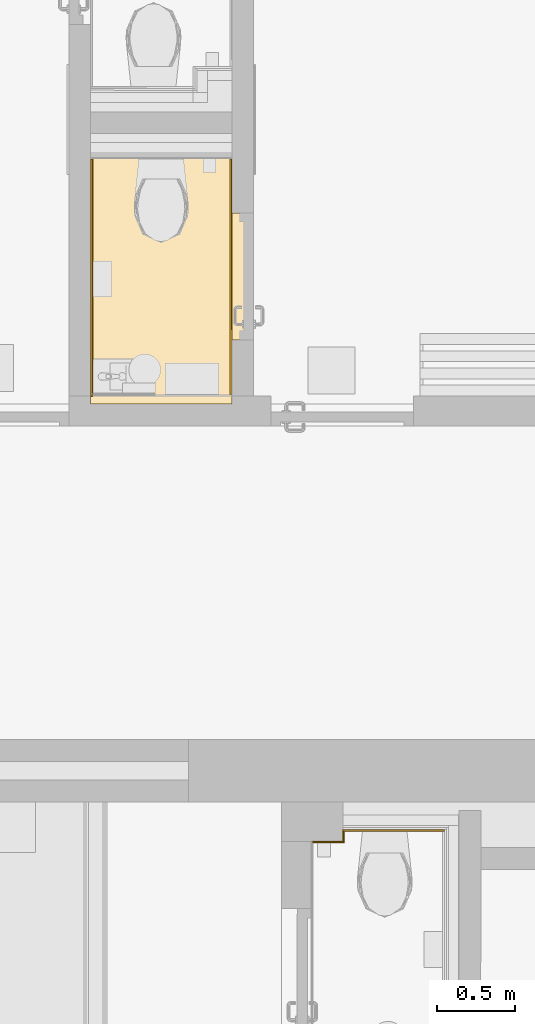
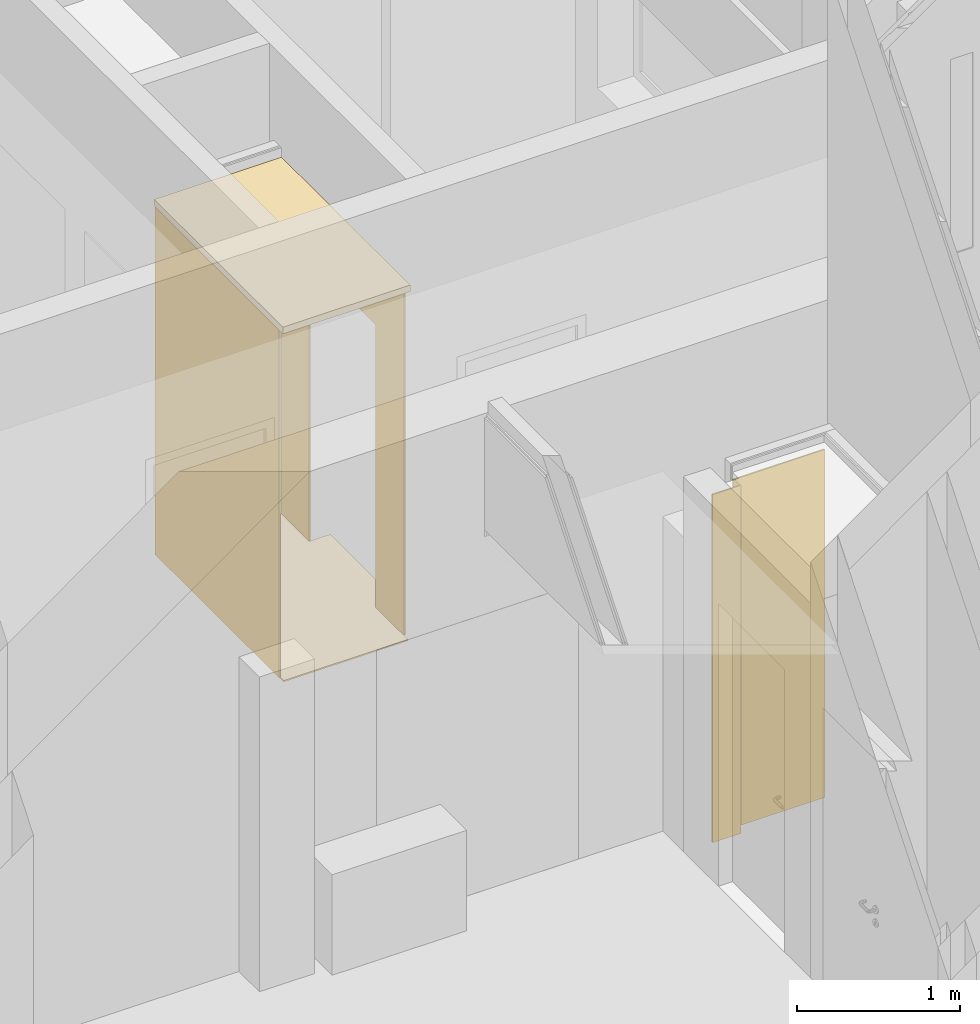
# One storey, part 235 of 301: 7 coverings, 1 opening.
"""IFC2X3 building model written with IfcOpenShell, lengths in millimetres."""

from ifc_helpers import new_model, entity, si_unit, converted_unit, derived_unit, money_unit, direction, frame, origin_with_axes, place, context, subcontext, project, spatial, faceted_brep, material, type_object, element, save


model = new_model("IFC2X3")

# Units and contexts
model_context = context("Model", 3, precision=0.01, world=origin_with_axes(), true_north=direction((0.0, 1.0)))
body_context = subcontext(model_context, "Body", "Model", "MODEL_VIEW")
ifc_project = project(units=[si_unit("LENGTHUNIT", "METRE", prefix="MILLI"), si_unit("AREAUNIT", "SQUARE_METRE"), si_unit("VOLUMEUNIT", "CUBIC_METRE"), converted_unit("PLANEANGLEUNIT", "DEGREE", entity("IfcPlaneAngleMeasure", 0.0174532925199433), si_unit("PLANEANGLEUNIT", "RADIAN"), dimensions=[0, 0, 0, 0, 0, 0, 0]), money_unit("EUR"), converted_unit("TIMEUNIT", "Year", entity("IfcTimeMeasure", 31557600.0), si_unit("TIMEUNIT", "SECOND"), dimensions=[0, 0, 1, 0, 0, 0, 0]), si_unit("MASSUNIT", "GRAM", prefix="KILO"), si_unit("THERMODYNAMICTEMPERATUREUNIT", "DEGREE_CELSIUS"), si_unit("LUMINOUSINTENSITYUNIT", "LUMEN"), si_unit("ENERGYUNIT", "JOULE", prefix="MEGA"), derived_unit("THERMALCONDUCTANCEUNIT", [(si_unit("POWERUNIT", "WATT"), 1), (si_unit("LENGTHUNIT", "METRE"), -1), (si_unit("THERMODYNAMICTEMPERATUREUNIT", "KELVIN"), -1)]), derived_unit("SPECIFICHEATCAPACITYUNIT", [(si_unit("ENERGYUNIT", "JOULE"), 1), (si_unit("MASSUNIT", "GRAM", prefix="KILO"), -1), (si_unit("THERMODYNAMICTEMPERATUREUNIT", "KELVIN"), -1)]), derived_unit("MASSDENSITYUNIT", [(si_unit("MASSUNIT", "GRAM", prefix="KILO"), 1), (si_unit("VOLUMEUNIT", "CUBIC_METRE"), -1)])], contexts=[model_context])

# Site, building, storey
site_placement = place(None, frame((0.0, 0.0, 8650.0), z_axis=(0.0, 0.0, 1.0), x_axis=(1.0, 0.0, 0.0)))
site = spatial("IfcSite", under=ifc_project, at=site_placement, Name="43301:001:0844", CompositionType="ELEMENT")
building_placement = place(site_placement, origin_with_axes())
building = spatial("IfcBuilding", under=site, at=building_placement, Name="Kuressaare Ametikooli tuulikute mehaanikute õppekorpus", CompositionType="ELEMENT")
storey_placement = place(building_placement, origin_with_axes())
storey = spatial("IfcBuildingStorey", under=building, at=storey_placement, Name="1.korrus", CompositionType="ELEMENT", Elevation=0.0)

# Coverings
ifc_material_1 = material(Name="GENEERILINE - KONSTRUKTRIOON")
covering_type_1 = type_object("IfcCoveringType", Name="GENEERILINE - KONSTRUKTRIOON 50", PredefinedType="CEILING")
covering_1_placement = place(storey_placement, frame((99127.70591823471, 28323.06892365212, 2600.0), z_axis=(0.0, 0.0, 1.0), x_axis=(1.0, 0.0, 0.0)))
element("IfcCovering", 1, at=covering_1_placement, inside=storey, type_object=covering_type_1, material=ifc_material_1, Name="RL2", PredefinedType="CEILING", context=body_context, shape_type="Brep", body=[
    faceted_brep([(0.0, 0.0, 49.99999999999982), (0.0, 0.0, 0.0), (899.9999999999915, 0.0, 0.0), (899.9999999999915, 0.0, 49.99999999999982), (0.0, 1575.413065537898, 49.99999999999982), (0.0, 1575.413065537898, 0.0), (899.9999999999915, 1575.413065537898, 0.0), (899.9999999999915, 1575.413065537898, 49.99999999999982)], [[[0, 1, 2, 3]], [[4, 5, 1, 0]], [[2, 1, 5, 6]], [[3, 2, 6, 7]], [[4, 0, 3, 7]], [[7, 6, 5, 4]]]),
])
ifc_material_2 = material(Name="SA_viimistluskiht")
covering_type_2 = type_object("IfcCoveringType", Name="SA_viimistluskiht 10", PredefinedType="CLADDING")
covering_2_placement = place(storey_placement, frame((101383.6546914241, 25608.13940888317, 0.0), z_axis=(0.0, 0.0, 1.0), x_axis=(-0.9999999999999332, -3.658297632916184e-07, 0.0)))
element("IfcCovering", 2, at=covering_2_placement, inside=storey, type_object=covering_type_2, material=ifc_material_2, Name="S3", PredefinedType="CLADDING", context=body_context, shape_type="Brep", body=[
    faceted_brep([(3.658286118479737e-06, 10.00000000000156, 2600.0), (0.0, 0.0, 2600.0), (647.3382097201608, 0.0, 2600.0), (647.3382097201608, 10.00000000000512, 2600.0), (0.0, 0.0, 0.0), (3.658286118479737e-06, 10.00000000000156, 0.0), (647.3382097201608, 0.0, 0.0), (647.3382097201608, 10.00000000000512, 0.0)], [[[0, 1, 2, 3]], [[4, 1, 0, 5]], [[1, 4, 6, 2]], [[7, 3, 2, 6]], [[5, 0, 3, 7]], [[4, 5, 7, 6]]]),
])
covering_3_placement = place(storey_placement, frame((100535.5599477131, 25533.05455399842, 0.0), z_axis=(0.0, 0.0, 1.0), x_axis=(0.9999999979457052, 6.40982810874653e-05, 0.0)))
element("IfcCovering", 3, at=covering_3_placement, inside=storey, type_object=covering_type_2, material=ifc_material_2, Name="S3", PredefinedType="CLADDING", context=body_context, shape_type="Brep", body=[
    faceted_brep([(10.00064150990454, 0.0, 0.0), (210.7565344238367, 0.0, 0.0), (210.7558934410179, -10.00000000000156, 0.0), (9.998852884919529, -9.99999999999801, 0.0), (10.00064150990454, 0.0, 2600.0), (210.7565344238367, 0.0, 2600.0), (210.7558934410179, -10.00000000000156, 2600.0), (9.998852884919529, -9.99999999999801, 2600.0)], [[[0, 1, 2, 3]], [[4, 5, 1, 0]], [[6, 2, 1, 5]], [[3, 2, 6, 7]], [[7, 4, 0, 3]], [[7, 6, 5, 4]]]),
])
covering_4_placement = place(storey_placement, frame((100736.316481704, 25533.06742214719, 0.0), z_axis=(0.0, 0.0, 1.0), x_axis=(0.0, 1.0, 0.0)))
element("IfcCovering", 4, at=covering_4_placement, inside=storey, type_object=covering_type_2, material=ifc_material_2, Name="S3", PredefinedType="CLADDING", context=body_context, shape_type="Brep", body=[
    faceted_brep([(65.07175357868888, -10.00000000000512, 0.0), (65.07175357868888, -10.00000000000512, 2600.0), (0.0006409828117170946, -10.00000000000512, 2600.0), (0.0006409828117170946, -10.00000000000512, 0.0), (65.07174992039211, -3.658300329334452e-06, 2600.0), (65.07174992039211, -3.658300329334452e-06, 0.0), (0.0, 0.0, 2600.0), (0.0, 0.0, 0.0)], [[[0, 1, 2, 3]], [[4, 1, 0, 5]], [[1, 4, 6, 2]], [[3, 2, 6, 7]], [[5, 0, 3, 7]], [[4, 5, 7, 6]]]),
])

# Covering, opening
covering_5_placement = place(storey_placement, frame((100027.7009260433, 28373.07007129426, 0.0), z_axis=(0.0, 0.0, 1.0), x_axis=(-0.0001147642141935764, 0.9999999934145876, 0.0)))
covering_5 = element("IfcCovering", 5, at=covering_5_placement, inside=storey, type_object=covering_type_2, material=ifc_material_2, Name="S3", PredefinedType="CLADDING", context=body_context, shape_type="Brep", body=[
    faceted_brep([(1169.998843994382, 0.0, 2110.0), (1169.998843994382, 0.0, 0.0), (1515.411418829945, 0.001151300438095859, 0.0), (1515.411418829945, 0.001151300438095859, 2600.0), (9.998967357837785, -0.006885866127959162, 2600.0), (9.998967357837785, -0.006885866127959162, 0.0), (359.9988439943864, 0.0, 0.0), (359.9988439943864, 0.0, 2110.0), (1169.998843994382, 10.00000000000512, 2110.0), (1169.998843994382, 10.00000000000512, 0.0), (1515.412569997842, 9.999999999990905, 0.0), (1515.412569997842, 9.999999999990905, 2600.0), (10.00011579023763, 10.00000000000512, 2600.0), (10.00011579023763, 10.00000000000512, 0.0), (359.9988439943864, 9.999999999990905, 0.0), (359.9988439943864, 9.999999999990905, 2110.0)], [[[0, 1, 2, 3, 4, 5, 6, 7]], [[1, 0, 8, 9]], [[1, 9, 10, 2]], [[3, 2, 10, 11]], [[4, 3, 11, 12]], [[4, 12, 13, 5]], [[14, 6, 5, 13]], [[7, 6, 14, 15]], [[0, 7, 15, 8]], [[15, 14, 13, 12, 11, 10, 9, 8]]]),
])
opening_placement = place(covering_5_placement, frame((764.9988439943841, 0.0, 0.0), z_axis=(0.0, 0.0, 1.0), x_axis=(1.0, 0.0, 0.0)))
element("IfcOpeningElement", 6, at=opening_placement, cuts=covering_5, Name="ava", context=body_context, shape_type="Brep", body=[
    faceted_brep([(404.9999999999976, 0.0, 2110.0), (-404.9999999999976, 0.0, 2110.0), (-405.0000000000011, -1.175062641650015, 2110.0), (405.0000000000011, -1.175062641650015, 2110.0), (405.0000000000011, 11.17506264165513, 2110.0), (-405.0000000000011, 11.17506264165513, 2110.0), (-404.9999999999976, 0.0, 0.0), (-405.0000000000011, -1.175062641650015, 0.0), (405.0000000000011, -1.175062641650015, 0.0), (404.9999999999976, 0.0, 0.0), (405.0000000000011, 11.17506264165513, 0.0), (-405.0000000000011, 11.17506264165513, 0.0)], [[[0, 1, 2, 3]], [[1, 0, 4, 5]], [[1, 6, 7, 2]], [[7, 8, 3, 2]], [[9, 0, 3, 8]], [[0, 9, 10, 4]], [[4, 10, 11, 5]], [[6, 1, 5, 11]], [[6, 9, 8, 7]], [[9, 6, 11, 10]]]),
])

# Coverings
covering_6_placement = place(storey_placement, frame((99129.54832818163, 29898.48180851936, 0.0), z_axis=(0.0, 0.0, 1.0), x_axis=(-3.971457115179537e-06, -0.9999999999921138, 0.0)))
element("IfcCovering", 7, at=covering_6_placement, inside=storey, type_object=covering_type_2, material=ifc_material_2, Name="S3", PredefinedType="CLADDING", context=body_context, shape_type="Brep", body=[
    faceted_brep([(9.999963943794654, 9.999999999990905, 0.0), (9.999963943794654, 9.999999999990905, 2600.0), (1525.41271795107, 9.999999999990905, 2600.0), (1525.41271795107, 9.999999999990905, 0.0), (9.999999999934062, 3.605626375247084e-05, 2600.0), (9.999999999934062, 3.605626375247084e-05, 0.0), (1525.412769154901, 0.0, 2600.0), (1525.412769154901, 0.0, 0.0)], [[[0, 1, 2, 3]], [[4, 1, 0, 5]], [[1, 4, 6, 2]], [[3, 2, 6, 7]], [[5, 0, 3, 7]], [[4, 5, 7, 6]]]),
])
covering_type_3 = type_object("IfcCoveringType", Name="GENEERILINE - KONSTRUKTRIOON 10", PredefinedType="FLOORING")
covering_7_placement = place(storey_placement, frame((99139.56397654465, 29888.48148360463, 0.0), z_axis=(0.0, 0.0, 1.0), x_axis=(1.0, 0.0, 0.0)))
element("IfcCovering", 8, at=covering_7_placement, inside=storey, type_object=covering_type_3, material=ifc_material_1, Name="P3a", PredefinedType="FLOORING", context=body_context, shape_type="Brep", body=[
    faceted_brep([(0.0, 0.0, 0.0), (0.0, 0.0, -10.0), (0.0, -1555.412571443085, -10.0), (0.0, -1555.412571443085, 0.0), (878.1426311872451, 0.0, 0.0), (878.1426311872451, 0.0, -10.0), (878.1426080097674, -345.4297715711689, -10.0), (1028.142594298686, -345.4297947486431, -10.0), (1028.142687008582, -1155.41256937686, -10.0), (878.0496431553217, -1155.41256937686, -10.0), (878.1415401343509, -1555.412571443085, -10.0), (878.1415401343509, -1555.412571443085, 0.0), (878.0496431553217, -1155.41256937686, 0.0), (1028.142687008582, -1155.41256937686, 0.0), (1028.142594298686, -345.4297947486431, 0.0), (878.1426080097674, -345.4297715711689, 0.0)], [[[0, 1, 2, 3]], [[4, 5, 1, 0]], [[2, 1, 5, 6, 7, 8, 9, 10]], [[3, 2, 10, 11]], [[0, 3, 11, 12, 13, 14, 15, 4]], [[15, 6, 5, 4]], [[14, 7, 6, 15]], [[13, 8, 7, 14]], [[12, 9, 8, 13]], [[11, 10, 9, 12]]]),
])

save(model, "model.ifc")
